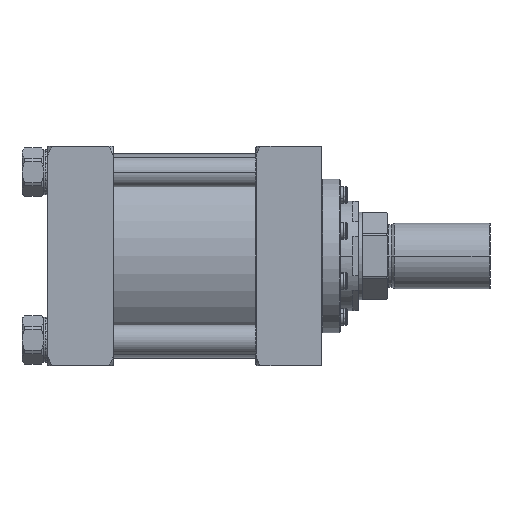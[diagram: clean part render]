
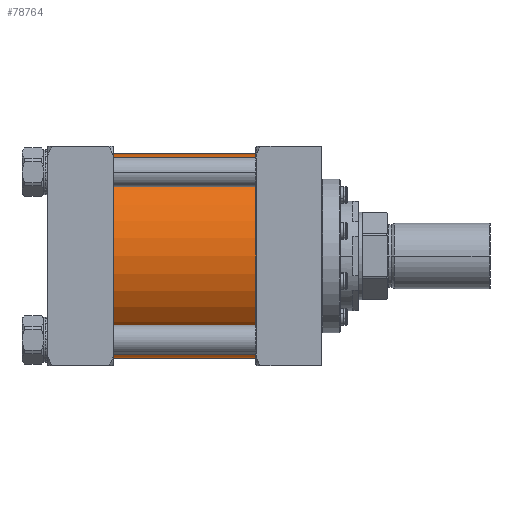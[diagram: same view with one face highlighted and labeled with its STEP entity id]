
A CAD part, front view. The second image highlights one B-rep face of the part: STEP entity #78764.
In plain terms, the highlighted cylindrical face has radius 88.9 mm (diameter 177.8 mm), a partial arc.
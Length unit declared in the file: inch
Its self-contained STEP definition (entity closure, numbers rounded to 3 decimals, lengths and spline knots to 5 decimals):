
#1083 = CARTESIAN_POINT ( 'NONE',  ( -9.625, 0., -3.5 ) ) ;
#4611 = CIRCLE ( 'NONE', #32058, 3.5 ) ;
#6667 = AXIS2_PLACEMENT_3D ( 'NONE', #74785, #9909, #24245 ) ;
#9909 = DIRECTION ( 'NONE',  ( 1., 0., 0. ) ) ;
#12906 = CIRCLE ( 'NONE', #66233, 3.5 ) ;
#13601 = DIRECTION ( 'NONE',  ( 0., 1., 0. ) ) ;
#14056 = EDGE_LOOP ( 'NONE', ( #86820, #38084, #89289, #79238 ) ) ;
#15773 = DIRECTION ( 'NONE',  ( 1., 0., 0. ) ) ;
#16590 = CYLINDRICAL_SURFACE ( 'NONE', #6667, 3.5 ) ;
#16977 = VERTEX_POINT ( 'NONE', #75107 ) ;
#18696 = DIRECTION ( 'NONE',  ( 0., 1., 0. ) ) ;
#20340 = CARTESIAN_POINT ( 'NONE',  ( -4.25, 0., 0. ) ) ;
#21861 = VECTOR ( 'NONE', #15773, 39.37008 ) ;
#24245 = DIRECTION ( 'NONE',  ( 0., 0., -1. ) ) ;
#32058 = AXIS2_PLACEMENT_3D ( 'NONE', #20340, #43175, #13601 ) ;
#33460 = DIRECTION ( 'NONE',  ( 1., 0., 0. ) ) ;
#37295 = VERTEX_POINT ( 'NONE', #59288 ) ;
#38084 = ORIENTED_EDGE ( 'NONE', *, *, #76441, .T. ) ;
#43175 = DIRECTION ( 'NONE',  ( 1., 0., 0. ) ) ;
#49324 = VERTEX_POINT ( 'NONE', #66226 ) ;
#50205 = EDGE_CURVE ( 'NONE', #16977, #55549, #60054, .T. ) ;
#55549 = VERTEX_POINT ( 'NONE', #87582 ) ;
#55654 = EDGE_CURVE ( 'NONE', #37295, #49324, #75243, .T. ) ;
#59288 = CARTESIAN_POINT ( 'NONE',  ( -9.625, 0., 3.5 ) ) ;
#60054 = LINE ( 'NONE', #1083, #21861 ) ;
#60440 = FACE_OUTER_BOUND ( 'NONE', #14056, .T. ) ;
#66226 = CARTESIAN_POINT ( 'NONE',  ( -4.25, 0., 3.5 ) ) ;
#66233 = AXIS2_PLACEMENT_3D ( 'NONE', #75011, #33460, #18696 ) ;
#67098 = VECTOR ( 'NONE', #90400, 39.37008 ) ;
#67605 = CARTESIAN_POINT ( 'NONE',  ( -9.625, 0., 3.5 ) ) ;
#74785 = CARTESIAN_POINT ( 'NONE',  ( -9.625, 0., 0. ) ) ;
#75011 = CARTESIAN_POINT ( 'NONE',  ( -9.625, 0., 0. ) ) ;
#75107 = CARTESIAN_POINT ( 'NONE',  ( -9.625, 0., -3.5 ) ) ;
#75243 = LINE ( 'NONE', #67605, #67098 ) ;
#76441 = EDGE_CURVE ( 'NONE', #37295, #16977, #12906, .T. ) ;
#78764 = ADVANCED_FACE ( 'NONE', ( #60440 ), #16590, .T. ) ;
#79238 = ORIENTED_EDGE ( 'NONE', *, *, #85217, .F. ) ;
#85217 = EDGE_CURVE ( 'NONE', #49324, #55549, #4611, .T. ) ;
#86820 = ORIENTED_EDGE ( 'NONE', *, *, #55654, .F. ) ;
#87582 = CARTESIAN_POINT ( 'NONE',  ( -4.25, 0., -3.5 ) ) ;
#89289 = ORIENTED_EDGE ( 'NONE', *, *, #50205, .T. ) ;
#90400 = DIRECTION ( 'NONE',  ( 1., 0., 0. ) ) ;
